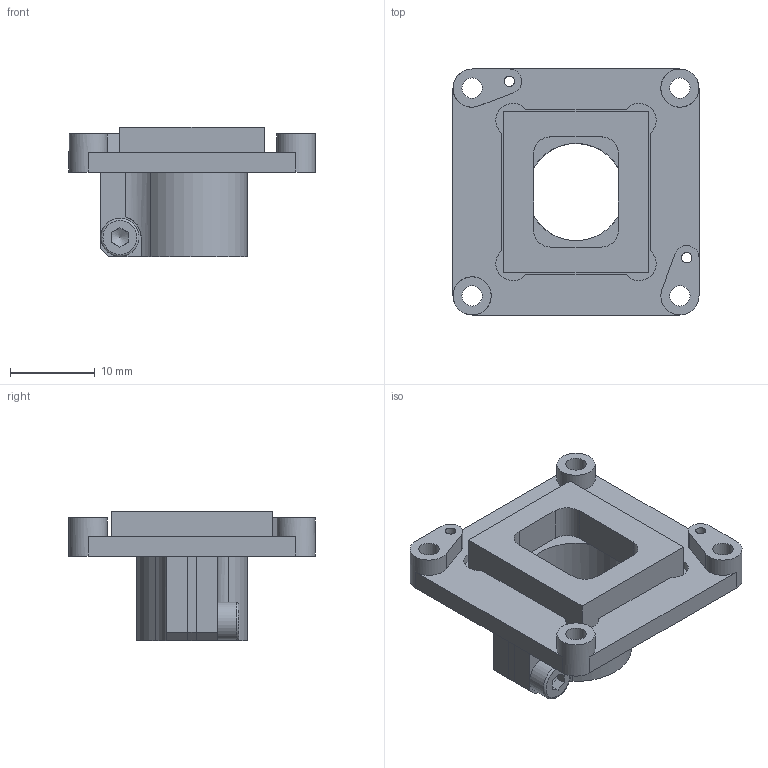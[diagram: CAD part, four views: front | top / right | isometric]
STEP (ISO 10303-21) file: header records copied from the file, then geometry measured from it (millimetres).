
FILE_DESCRIPTION(/* description */ (''),/* implementation_level */ '2;1');
FILE_NAME(/* name */ 'KSM_228-23-0-10-01-a_ZB MLH10 (Schraube+Silikon+Seal 4).stp',/* time_stamp */ '2026-01-20T10:14:29+01:00',/* author */ ('Westermann'),/* organization */ ('TIS/ Germany'),/* preprocessor_version */ 'ST-DEVELOPER v20',/* originating_system */ 'Autodesk Inventor 2025',/* authorisation */ '520025 mm^3');
FILE_SCHEMA (('AUTOMOTIVE_DESIGN { 1 0 10303 214 3 1 1 }'));
Length unit declared in the file: millimetre
Products named in the file (3): KSM_228-23-0-10-01_ZB MLH10 (Schraube+Silikon+Dichtkissen2); KSM1_228-23-0-10-01_ZB MLH10 (Schraube+Silikon); 228-22-0-00-02-a_Dichtkissen 4mm
Assembly tree (2 placements, depth 2):
  KSM_228-23-0-10-01_ZB MLH10 (Schraube+Silikon+Dichtkissen2)
    KSM1_228-23-0-10-01_ZB MLH10 (Schraube+Silikon)
    228-22-0-00-02-a_Dichtkissen 4mm
Bounding box: 29 x 29 x 15.3 mm (x, y, z)
Volume: 2935.6 mm3; surface area: 3883.9 mm2
Topology: 2 solids, 2 shells, 79 faces, 214 edges, 141 vertices
Faces by surface type: plane 48, cylinder 28, cone 2, torus 1
Full cylindrical faces by diameter (mm): 1.221 x2, 2.013 x1, 2.4 x4, 4.5 x3, 11.459 x1
Entity records: 2745 total; most frequent: CARTESIAN_POINT 480, DIRECTION 438, ORIENTED_EDGE 426, EDGE_CURVE 213, AXIS2_PLACEMENT_3D 151, VERTEX_POINT 141, LINE 136, VECTOR 136
